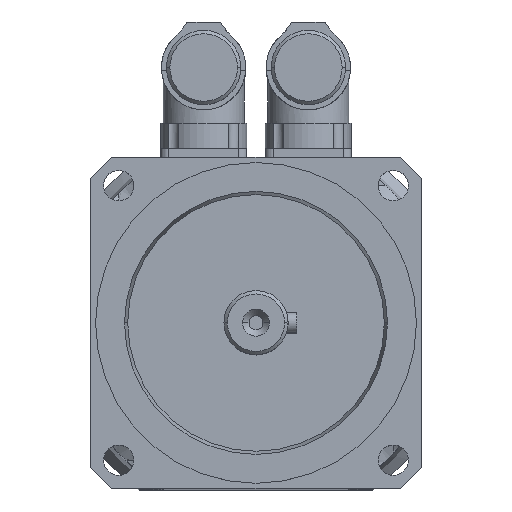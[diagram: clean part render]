
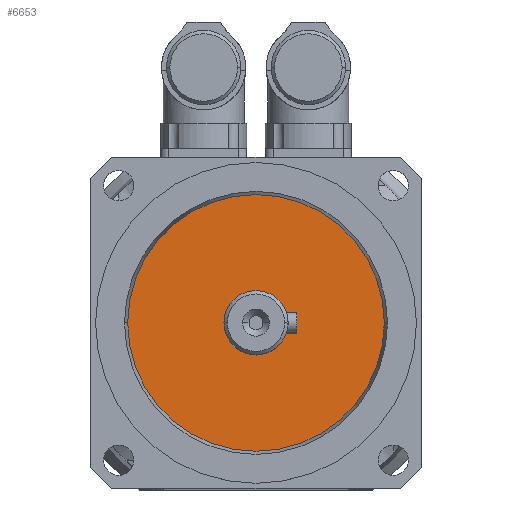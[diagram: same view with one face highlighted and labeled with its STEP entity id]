
A CAD part, top view. The second image highlights one B-rep face of the part: STEP entity #6653.
In plain terms, the highlighted free-form (B-spline) face has degree [1, 1] with [2, 2] control points.
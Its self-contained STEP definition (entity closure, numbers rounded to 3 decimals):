
#6323=CARTESIAN_POINT('',(-9.5,0.,273.5));
#6324=VERTEX_POINT('',#6323);
#6333=CARTESIAN_POINT('',(9.5,0.,273.5));
#6334=VERTEX_POINT('',#6333);
#6335=CARTESIAN_POINT('',(0.0,0.0,273.5));
#6336=DIRECTION('',(0.0,0.0,-1.0));
#6337=DIRECTION('',(-1.0,0.0,0.0));
#6338=AXIS2_PLACEMENT_3D('',#6335,#6336,#6337);
#6339=CIRCLE('',#6338,9.5);
#6340=EDGE_CURVE('',#6334,#6324,#6339,.T.);
#6593=CARTESIAN_POINT('',(38.0,0.0,273.5));
#6594=VERTEX_POINT('',#6593);
#6610=CARTESIAN_POINT('',(-38.0,0.,273.5));
#6611=VERTEX_POINT('',#6610);
#6618=CARTESIAN_POINT('',(0.0,0.0,273.5));
#6619=DIRECTION('',(0.0,0.0,1.0));
#6620=DIRECTION('',(1.0,0.0,0.0));
#6621=AXIS2_PLACEMENT_3D('',#6618,#6619,#6620);
#6622=CIRCLE('',#6621,38.0);
#6623=EDGE_CURVE('',#6594,#6611,#6622,.T.);
#6628=CARTESIAN_POINT('',(-38.0,38.0,273.5));
#6629=CARTESIAN_POINT('',(38.0,38.0,273.5));
#6630=CARTESIAN_POINT('',(-38.0,-38.0,273.5));
#6631=CARTESIAN_POINT('',(38.0,-38.0,273.5));
#6632=B_SPLINE_SURFACE_WITH_KNOTS('',1,1,((#6628,#6630),(#6629,#6631)),.UNSPECIFIED.,.F.,.F.,.U.,(2,2),(2,2),(0.0,76.0),(0.0,76.0),.UNSPECIFIED.);
#6633=ORIENTED_EDGE('',*,*,#6623,.T.);
#6634=CARTESIAN_POINT('',(0.0,0.0,273.5));
#6635=DIRECTION('',(0.0,0.0,1.0));
#6636=DIRECTION('',(1.0,0.0,0.0));
#6637=AXIS2_PLACEMENT_3D('',#6634,#6635,#6636);
#6638=CIRCLE('',#6637,38.0);
#6639=EDGE_CURVE('',#6611,#6594,#6638,.T.);
#6640=ORIENTED_EDGE('',*,*,#6639,.T.);
#6641=EDGE_LOOP('',(#6633,#6640));
#6642=FACE_OUTER_BOUND('',#6641,.T.);
#6643=ORIENTED_EDGE('',*,*,#6340,.T.);
#6644=CARTESIAN_POINT('',(0.0,0.0,273.5));
#6645=DIRECTION('',(0.0,0.0,-1.0));
#6646=DIRECTION('',(-1.0,0.0,0.0));
#6647=AXIS2_PLACEMENT_3D('',#6644,#6645,#6646);
#6648=CIRCLE('',#6647,9.5);
#6649=EDGE_CURVE('',#6324,#6334,#6648,.T.);
#6650=ORIENTED_EDGE('',*,*,#6649,.T.);
#6651=EDGE_LOOP('',(#6643,#6650));
#6652=FACE_BOUND('',#6651,.T.);
#6653=ADVANCED_FACE('',(#6642,#6652),#6632,.F.);
